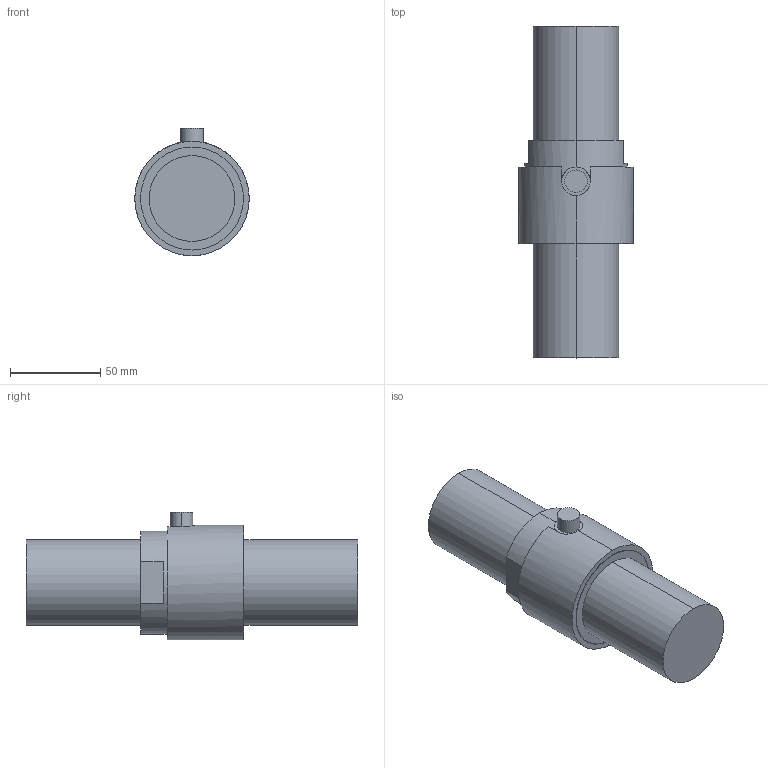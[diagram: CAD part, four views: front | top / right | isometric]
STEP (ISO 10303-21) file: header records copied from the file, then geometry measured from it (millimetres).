
FILE_DESCRIPTION (( 'STEP AP214' ), '1' );
FILE_NAME ('TT55-120KLB.STEP', '2024-09-06T14:46:25', ( '' ), ( '' ), 'SwSTEP 2.0', 'SolidWorks 2008', '' );
FILE_SCHEMA (( 'AUTOMOTIVE_DESIGN' ));
Length unit declared in the file: inch
Products named in the file (1): TT55-120KLB
Bounding box: 63.5 x 184.15 x 70.74 mm (x, y, z)
Volume: 398424.6 mm3; surface area: 36835.6 mm2
Topology: 1 solids, 1 shells, 30 faces, 68 edges, 44 vertices
Faces by surface type: cylinder 16, plane 14
Entity records: 959 total; most frequent: CARTESIAN_POINT 235, DIRECTION 156, ORIENTED_EDGE 136, EDGE_CURVE 68, AXIS2_PLACEMENT_3D 63, VERTEX_POINT 44, EDGE_LOOP 34, CIRCLE 32
